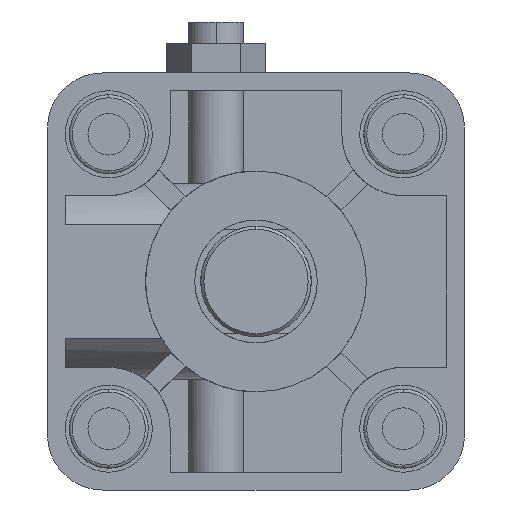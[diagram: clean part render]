
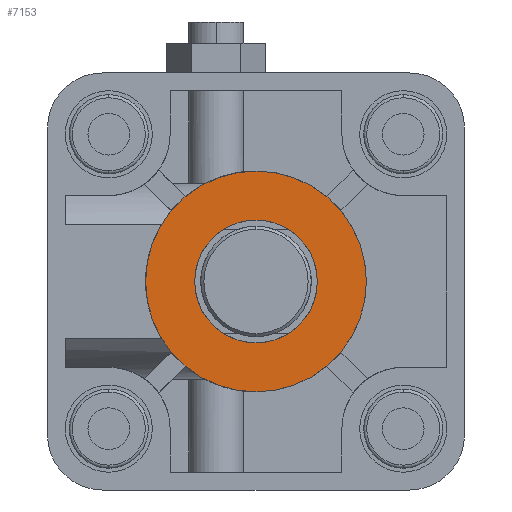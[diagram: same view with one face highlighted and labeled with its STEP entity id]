
A CAD part, left-side view. The second image highlights one B-rep face of the part: STEP entity #7153.
In plain terms, the highlighted planar face has unit normal (-1, 0, 0) as drawn and (1, 0, 0) by its records, which use the part's own axes.
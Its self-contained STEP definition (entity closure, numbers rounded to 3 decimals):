
#105 = AXIS2_PLACEMENT_3D ( 'NONE', #5065, #3806, #6009 ) ;
#219 = DIRECTION ( 'NONE',  ( -1., 0., 0. ) ) ;
#229 = FACE_BOUND ( 'NONE', #776, .T. ) ;
#437 = CIRCLE ( 'NONE', #105, 10. ) ;
#747 = DIRECTION ( 'NONE',  ( 0., 0., 1. ) ) ;
#776 = EDGE_LOOP ( 'NONE', ( #9446, #2989 ) ) ;
#836 = DIRECTION ( 'NONE',  ( 0., 0., 1. ) ) ;
#848 = AXIS2_PLACEMENT_3D ( 'NONE', #5149, #2300, #4518 ) ;
#1229 = VERTEX_POINT ( 'NONE', #2220 ) ;
#1460 = EDGE_LOOP ( 'NONE', ( #3144, #4399 ) ) ;
#1559 = PLANE ( 'NONE',  #5460 ) ;
#1576 = EDGE_CURVE ( 'NONE', #2709, #5548, #7235, .T. ) ;
#2220 = CARTESIAN_POINT ( 'NONE',  ( 26., 0., 10. ) ) ;
#2300 = DIRECTION ( 'NONE',  ( -1., 0., 0. ) ) ;
#2632 = CIRCLE ( 'NONE', #848, 10. ) ;
#2709 = VERTEX_POINT ( 'NONE', #6633 ) ;
#2989 = ORIENTED_EDGE ( 'NONE', *, *, #8889, .T. ) ;
#3144 = ORIENTED_EDGE ( 'NONE', *, *, #1576, .F. ) ;
#3806 = DIRECTION ( 'NONE',  ( -1., 0., 0. ) ) ;
#3909 = EDGE_CURVE ( 'NONE', #5548, #2709, #6265, .T. ) ;
#4030 = CARTESIAN_POINT ( 'NONE',  ( 26., 0., -10. ) ) ;
#4066 = AXIS2_PLACEMENT_3D ( 'NONE', #7218, #219, #5331 ) ;
#4399 = ORIENTED_EDGE ( 'NONE', *, *, #3909, .F. ) ;
#4518 = DIRECTION ( 'NONE',  ( 0., 0., 1. ) ) ;
#5065 = CARTESIAN_POINT ( 'NONE',  ( 26., 0., 0. ) ) ;
#5132 = EDGE_CURVE ( 'NONE', #1229, #8760, #437, .T. ) ;
#5149 = CARTESIAN_POINT ( 'NONE',  ( 26., 0., 0. ) ) ;
#5281 = CARTESIAN_POINT ( 'NONE',  ( 26., 0., 0. ) ) ;
#5331 = DIRECTION ( 'NONE',  ( 0., 0., 1. ) ) ;
#5460 = AXIS2_PLACEMENT_3D ( 'NONE', #8722, #6438, #747 ) ;
#5548 = VERTEX_POINT ( 'NONE', #5839 ) ;
#5839 = CARTESIAN_POINT ( 'NONE',  ( 26., 0., -18. ) ) ;
#6009 = DIRECTION ( 'NONE',  ( 0., 0., 1. ) ) ;
#6265 = CIRCLE ( 'NONE', #4066, 18. ) ;
#6438 = DIRECTION ( 'NONE',  ( -1., 0., 0. ) ) ;
#6633 = CARTESIAN_POINT ( 'NONE',  ( 26., 0., 18. ) ) ;
#7153 = ADVANCED_FACE ( 'NONE', ( #7565, #229 ), #1559, .F. ) ;
#7218 = CARTESIAN_POINT ( 'NONE',  ( 26., 0., 0. ) ) ;
#7235 = CIRCLE ( 'NONE', #8013, 18. ) ;
#7508 = DIRECTION ( 'NONE',  ( -1., 0., 0. ) ) ;
#7565 = FACE_OUTER_BOUND ( 'NONE', #1460, .T. ) ;
#8013 = AXIS2_PLACEMENT_3D ( 'NONE', #5281, #7508, #836 ) ;
#8722 = CARTESIAN_POINT ( 'NONE',  ( 26., 10., 0. ) ) ;
#8760 = VERTEX_POINT ( 'NONE', #4030 ) ;
#8889 = EDGE_CURVE ( 'NONE', #8760, #1229, #2632, .T. ) ;
#9446 = ORIENTED_EDGE ( 'NONE', *, *, #5132, .T. ) ;
